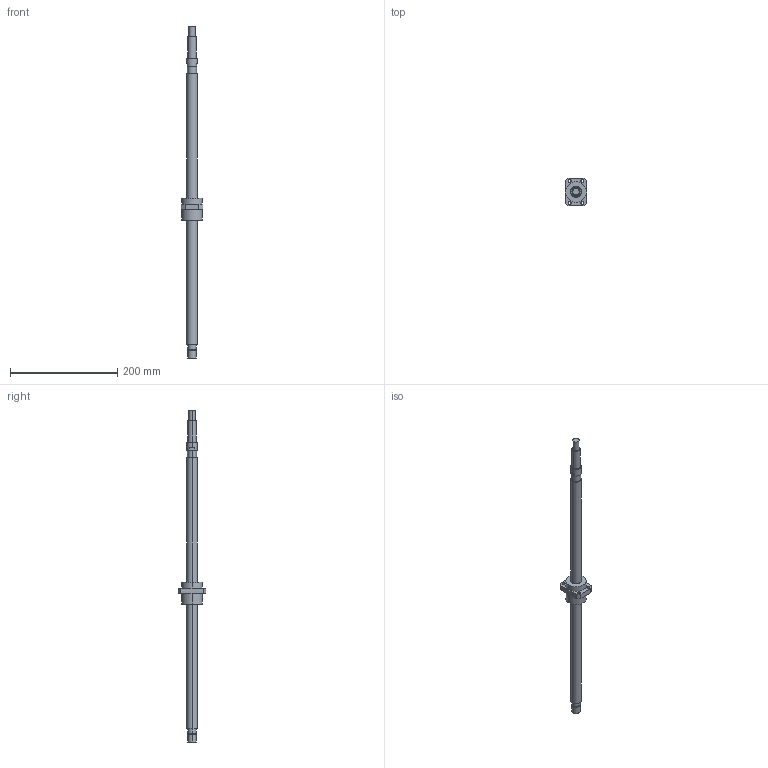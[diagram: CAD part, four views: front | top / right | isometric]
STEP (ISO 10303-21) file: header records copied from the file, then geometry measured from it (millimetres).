
FILE_DESCRIPTION((''),'2;1');
FILE_NAME('2R20-40V2-DFSH-506-620','2008-03-27T',('wcwu'),(''),'PRO/ENGINEER BY PARAMETRIC TECHNOLOGY CORPORATION, 2005070','PRO/ENGINEER BY PARAMETRIC TECHNOLOGY CORPORATION, 2005070','');
FILE_SCHEMA(('CONFIG_CONTROL_DESIGN'));
Length unit declared in the file: millimetre
Products named in the file (1): 2R20-40V2-DFSH-506-620
Bounding box: 40 x 52 x 620 mm (x, y, z)
Volume: 221759.4 mm3; surface area: 44807.6 mm2
Topology: 1 solids, 1 shells, 56 faces, 128 edges, 84 vertices
Faces by surface type: cylinder 34, plane 22
Entity records: 1666 total; most frequent: DIRECTION 312, CARTESIAN_POINT 268, ORIENTED_EDGE 256, AXIS2_PLACEMENT_3D 128, EDGE_CURVE 128, VERTEX_POINT 84, EDGE_LOOP 74, CIRCLE 72
